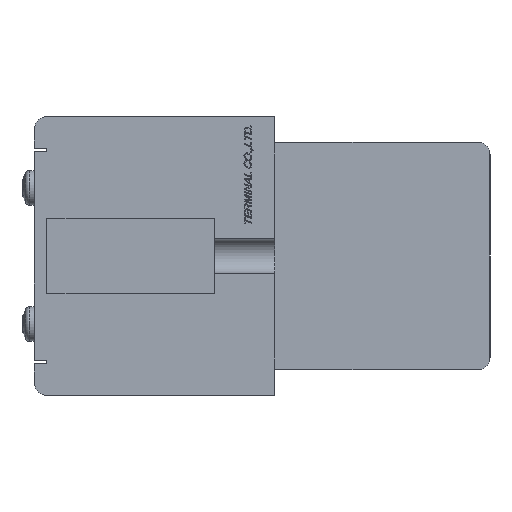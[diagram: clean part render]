
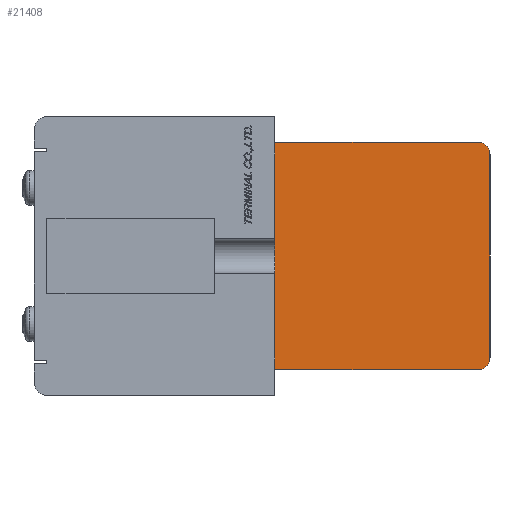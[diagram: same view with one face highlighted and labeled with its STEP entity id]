
A CAD part, left-side view. The second image highlights one B-rep face of the part: STEP entity #21408.
In plain terms, the highlighted planar face has unit normal (-1, 0, 0).
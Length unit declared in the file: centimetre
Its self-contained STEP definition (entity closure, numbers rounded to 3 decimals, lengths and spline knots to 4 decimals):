
#1025=CIRCLE('',#36493,0.2);
#1026=CIRCLE('',#36496,0.2);
#3276=VERTEX_POINT('',#33900);
#3279=VERTEX_POINT('',#33905);
#3292=VERTEX_POINT('',#33951);
#3296=VERTEX_POINT('',#33962);
#3297=VERTEX_POINT('',#33966);
#3298=VERTEX_POINT('',#33970);
#5372=VECTOR('',#26651,1.);
#5393=VECTOR('',#26687,1.);
#5400=VECTOR('',#26699,1.);
#5403=VECTOR('',#26707,1.);
#7442=LINE('',#33906,#5372);
#7463=LINE('',#33950,#5393);
#7470=LINE('',#33965,#5400);
#7473=LINE('',#33973,#5403);
#10505=EDGE_CURVE('',#3279,#3276,#7442,.T.);
#10528=EDGE_CURVE('',#3276,#3292,#7463,.T.);
#10534=EDGE_CURVE('',#3292,#3296,#1025,.T.);
#10536=EDGE_CURVE('',#3296,#3297,#7470,.T.);
#10538=EDGE_CURVE('',#3297,#3298,#1026,.T.);
#10540=EDGE_CURVE('',#3298,#3279,#7473,.T.);
#16561=ORIENTED_EDGE('',*,*,#10505,.F.);
#16562=ORIENTED_EDGE('',*,*,#10540,.F.);
#16563=ORIENTED_EDGE('',*,*,#10538,.F.);
#16564=ORIENTED_EDGE('',*,*,#10536,.F.);
#16565=ORIENTED_EDGE('',*,*,#10534,.F.);
#16566=ORIENTED_EDGE('',*,*,#10528,.F.);
#18708=EDGE_LOOP('',(#16561,#16562,#16563,#16564,#16565,#16566));
#20149=FACE_BOUND('',#18708,.T.);
#21408=ADVANCED_FACE('',(#20149),#22295,.F.);
#22295=PLANE('',#36498);
#26651=DIRECTION('',(0.,0.,1.));
#26687=DIRECTION('',(0.,-1.,0.));
#26695=DIRECTION('',(1.,0.,0.));
#26696=DIRECTION('',(0.,0.,-0.2));
#26699=DIRECTION('',(0.,0.,-1.));
#26703=DIRECTION('',(1.,0.,0.));
#26704=DIRECTION('',(0.,0.,-0.2));
#26707=DIRECTION('',(0.,1.,0.));
#26712=DIRECTION('',(1.,0.,0.));
#33900=CARTESIAN_POINT('',(-5.1,0.,1.8));
#33905=CARTESIAN_POINT('',(-5.1,0.,-1.8));
#33906=CARTESIAN_POINT('',(-5.1,0.,1.8));
#33950=CARTESIAN_POINT('',(-5.1,-3.2,1.8));
#33951=CARTESIAN_POINT('',(-5.1,-3.2,1.8));
#33961=CARTESIAN_POINT('',(-5.1,-3.2,1.6));
#33962=CARTESIAN_POINT('',(-5.1,-3.4,1.6));
#33965=CARTESIAN_POINT('',(-5.1,-3.4,-1.6));
#33966=CARTESIAN_POINT('',(-5.1,-3.4,-1.6));
#33969=CARTESIAN_POINT('',(-5.1,-3.2,-1.6));
#33970=CARTESIAN_POINT('',(-5.1,-3.2,-1.8));
#33973=CARTESIAN_POINT('',(-5.1,0.,-1.8));
#33981=CARTESIAN_POINT('',(-5.1,-1.6784,0.));
#36493=AXIS2_PLACEMENT_3D('',#33961,#26695,#26696);
#36496=AXIS2_PLACEMENT_3D('',#33969,#26703,#26704);
#36498=AXIS2_PLACEMENT_3D('',#33981,#26712,$);
